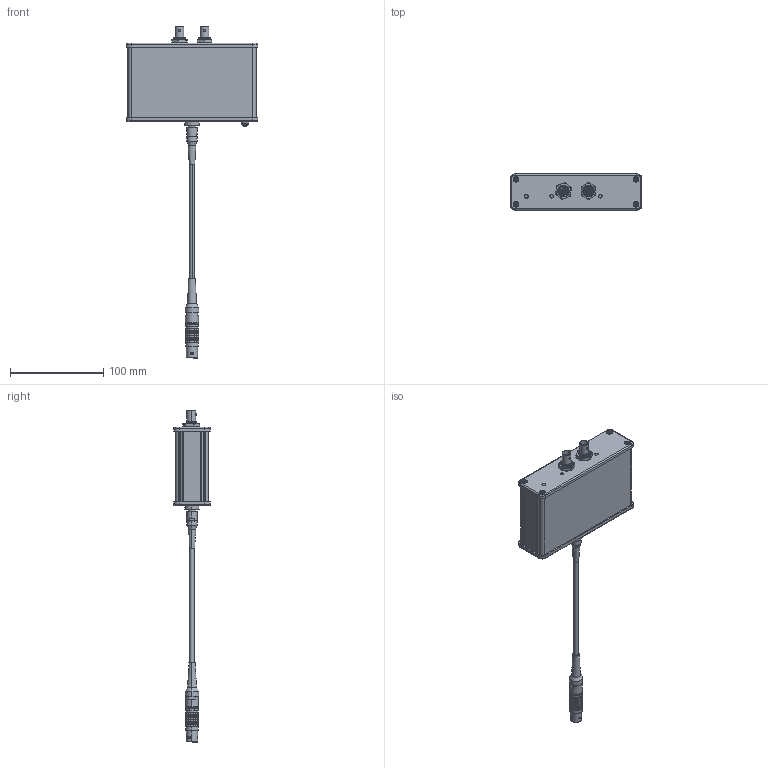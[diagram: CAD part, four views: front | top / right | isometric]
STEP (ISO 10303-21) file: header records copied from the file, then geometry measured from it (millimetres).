
FILE_DESCRIPTION (( 'STEP AP214' ), '1' );
FILE_NAME ('VM-10.STEP', '2023-05-30T18:09:05', ( '' ), ( '' ), 'SwSTEP 2.0', 'SolidWorks 2020', '' );
FILE_SCHEMA (( 'AUTOMOTIVE_DESIGN' ));
Length unit declared in the file: inch
Products named in the file (1): VM-10
Bounding box: 141.88 x 39.01 x 356.97 mm (x, y, z)
Surface area: 108415.4 mm2 (no closed solid volume)
Topology: 0 solids, 50 shells, 2361 faces, 6010 edges, 3761 vertices
Faces by surface type: plane 916, cylinder 630, cone 370, bspline 322, torus 117, sphere 6
Entity records: 110610 total; most frequent: CARTESIAN_POINT 40743, ORIENTED_EDGE 11722, DIRECTION 10308, EDGE_CURVE 5992, AXIS2_PLACEMENT_3D 3791, VERTEX_POINT 3761, LINE 2726, VECTOR 2726
